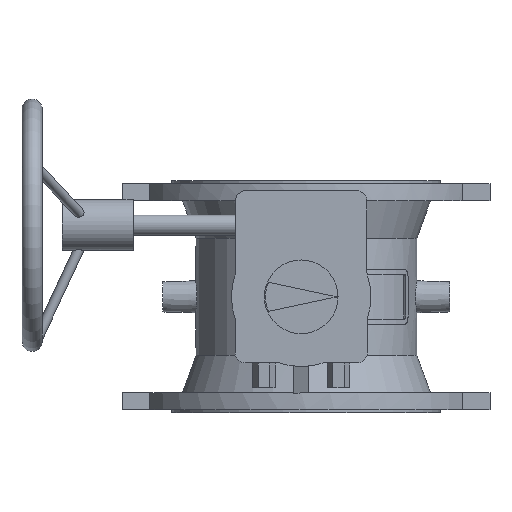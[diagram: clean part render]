
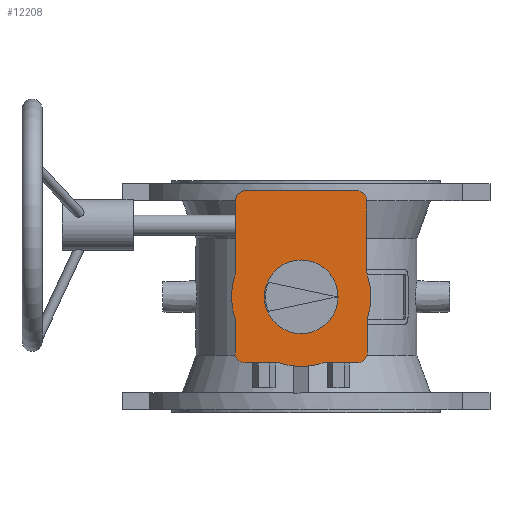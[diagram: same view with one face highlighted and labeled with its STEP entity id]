
A CAD part, left-side view. The second image highlights one B-rep face of the part: STEP entity #12208.
In plain terms, the highlighted planar face has unit normal (-1, 0, 0).
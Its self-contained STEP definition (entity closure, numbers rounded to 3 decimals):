
#148 = EDGE_CURVE ( 'NONE', #3085, #2961, #3271, .T. ) ;
#153 = EDGE_CURVE ( 'NONE', #3190, #3184, #3263, .T. ) ;
#156 = EDGE_CURVE ( 'NONE', #2958, #3218, #3253, .T. ) ;
#164 = EDGE_CURVE ( 'NONE', #3226, #2958, #3258, .T. ) ;
#166 = EDGE_CURVE ( 'NONE', #3196, #3097, #3239, .T. ) ;
#201 = EDGE_CURVE ( 'NONE', #3087, #3196, #11760, .T. ) ;
#204 = EDGE_CURVE ( 'NONE', #3184, #3144, #16314, .T. ) ;
#223 = EDGE_CURVE ( 'NONE', #3189, #3085, #6064, .T. ) ;
#247 = EDGE_CURVE ( 'NONE', #2961, #3102, #7753, .T. ) ;
#251 = EDGE_CURVE ( 'NONE', #3097, #3222, #7760, .T. ) ;
#922 = ORIENTED_EDGE ( 'NONE', *, *, #251, .T. ) ;
#1022 = ORIENTED_EDGE ( 'NONE', *, *, #148, .T. ) ;
#1042 = ORIENTED_EDGE ( 'NONE', *, *, #166, .T. ) ;
#1080 = ORIENTED_EDGE ( 'NONE', *, *, #164, .T. ) ;
#1127 = ORIENTED_EDGE ( 'NONE', *, *, #201, .T. ) ;
#1142 = ORIENTED_EDGE ( 'NONE', *, *, #3516, .F. ) ;
#1172 = ORIENTED_EDGE ( 'NONE', *, *, #223, .T. ) ;
#1233 = ORIENTED_EDGE ( 'NONE', *, *, #247, .T. ) ;
#1382 = ORIENTED_EDGE ( 'NONE', *, *, #156, .T. ) ;
#1467 = ORIENTED_EDGE ( 'NONE', *, *, #3556, .T. ) ;
#1493 = ORIENTED_EDGE ( 'NONE', *, *, #3525, .T. ) ;
#1595 = ORIENTED_EDGE ( 'NONE', *, *, #3487, .T. ) ;
#1621 = ORIENTED_EDGE ( 'NONE', *, *, #3543, .T. ) ;
#2958 = VERTEX_POINT ( 'NONE', #7366 ) ;
#2961 = VERTEX_POINT ( 'NONE', #7260 ) ;
#2975 = ORIENTED_EDGE ( 'NONE', *, *, #3544, .T. ) ;
#2979 = ORIENTED_EDGE ( 'NONE', *, *, #204, .T. ) ;
#2980 = ORIENTED_EDGE ( 'NONE', *, *, #3491, .T. ) ;
#2982 = ORIENTED_EDGE ( 'NONE', *, *, #153, .T. ) ;
#3085 = VERTEX_POINT ( 'NONE', #7232 ) ;
#3087 = VERTEX_POINT ( 'NONE', #7269 ) ;
#3097 = VERTEX_POINT ( 'NONE', #7222 ) ;
#3102 = VERTEX_POINT ( 'NONE', #7220 ) ;
#3106 = VERTEX_POINT ( 'NONE', #7231 ) ;
#3135 = VERTEX_POINT ( 'NONE', #7300 ) ;
#3144 = VERTEX_POINT ( 'NONE', #7162 ) ;
#3184 = VERTEX_POINT ( 'NONE', #7307 ) ;
#3189 = VERTEX_POINT ( 'NONE', #7145 ) ;
#3190 = VERTEX_POINT ( 'NONE', #7171 ) ;
#3196 = VERTEX_POINT ( 'NONE', #7202 ) ;
#3218 = VERTEX_POINT ( 'NONE', #7379 ) ;
#3222 = VERTEX_POINT ( 'NONE', #7384 ) ;
#3226 = VERTEX_POINT ( 'NONE', #7382 ) ;
#3232 = VECTOR ( 'NONE', #16004, 1000. ) ;
#3237 = VECTOR ( 'NONE', #16009, 1000. ) ;
#3238 = VECTOR ( 'NONE', #16046, 1000. ) ;
#3239 = CIRCLE ( 'NONE', #3443, 10. ) ;
#3253 = LINE ( 'NONE', #16027, #3238 ) ;
#3258 = CIRCLE ( 'NONE', #3445, 10. ) ;
#3263 = LINE ( 'NONE', #16048, #3232 ) ;
#3271 = LINE ( 'NONE', #16011, #3237 ) ;
#3397 = AXIS2_PLACEMENT_3D ( 'NONE', #7538, #7539, #7540 ) ;
#3403 = AXIS2_PLACEMENT_3D ( 'NONE', #7508, #7509, #7510 ) ;
#3404 = AXIS2_PLACEMENT_3D ( 'NONE', #7504, #7505, #7506 ) ;
#3410 = AXIS2_PLACEMENT_3D ( 'NONE', #7465, #7466, #7467 ) ;
#3415 = AXIS2_PLACEMENT_3D ( 'NONE', #7419, #7420, #7421 ) ;
#3425 = AXIS2_PLACEMENT_3D ( 'NONE', #7678, #7673, #7674 ) ;
#3432 = AXIS2_PLACEMENT_3D ( 'NONE', #7634, #7654, #7656 ) ;
#3435 = AXIS2_PLACEMENT_3D ( 'NONE', #16086, #16087, #16090 ) ;
#3443 = AXIS2_PLACEMENT_3D ( 'NONE', #15980, #15974, #15972 ) ;
#3445 = AXIS2_PLACEMENT_3D ( 'NONE', #15970, #15978, #15981 ) ;
#3487 = EDGE_CURVE ( 'NONE', #3106, #3087, #7784, .T. ) ;
#3491 = EDGE_CURVE ( 'NONE', #3144, #3135, #7790, .T. ) ;
#3516 = EDGE_CURVE ( 'NONE', #14770, #14770, #7821, .T. ) ;
#3525 = EDGE_CURVE ( 'NONE', #3102, #3106, #7829, .T. ) ;
#3543 = EDGE_CURVE ( 'NONE', #3218, #3190, #7845, .T. ) ;
#3544 = EDGE_CURVE ( 'NONE', #3135, #3189, #7849, .T. ) ;
#3556 = EDGE_CURVE ( 'NONE', #3222, #3226, #7868, .T. ) ;
#5747 = AXIS2_PLACEMENT_3D ( 'NONE', #7025, #7038, #7040 ) ;
#6064 = CIRCLE ( 'NONE', #3432, 69. ) ;
#6829 = CARTESIAN_POINT ( 'NONE',  ( -279., 0., 36.5 ) ) ;
#7025 = CARTESIAN_POINT ( 'NONE',  ( -279., 75., 24.819 ) ) ;
#7027 = PLANE ( 'NONE',  #5747 ) ;
#7038 = DIRECTION ( 'NONE',  ( -1., 0., 0. ) ) ;
#7040 = DIRECTION ( 'NONE',  ( 0., 0., 1. ) ) ;
#7145 = CARTESIAN_POINT ( 'NONE',  ( -279., 65.506, 21.678 ) ) ;
#7162 = CARTESIAN_POINT ( 'NONE',  ( -279., 65., 95. ) ) ;
#7171 = CARTESIAN_POINT ( 'NONE',  ( -279., -55., 105. ) ) ;
#7202 = CARTESIAN_POINT ( 'NONE',  ( -279., -55.5, -65.5 ) ) ;
#7220 = CARTESIAN_POINT ( 'NONE',  ( -279., 55.5, -65.5 ) ) ;
#7222 = CARTESIAN_POINT ( 'NONE',  ( -279., -65.5, -55.5 ) ) ;
#7231 = CARTESIAN_POINT ( 'NONE',  ( -279., 21.697, -65.5 ) ) ;
#7232 = CARTESIAN_POINT ( 'NONE',  ( -279., 65.5, -21.697 ) ) ;
#7260 = CARTESIAN_POINT ( 'NONE',  ( -279., 65.5, -55.5 ) ) ;
#7269 = CARTESIAN_POINT ( 'NONE',  ( -279., -21.697, -65.5 ) ) ;
#7300 = CARTESIAN_POINT ( 'NONE',  ( -279., 65., 24.819 ) ) ;
#7307 = CARTESIAN_POINT ( 'NONE',  ( -279., 55., 105. ) ) ;
#7366 = CARTESIAN_POINT ( 'NONE',  ( -279., -65., 24.819 ) ) ;
#7379 = CARTESIAN_POINT ( 'NONE',  ( -279., -65., 95. ) ) ;
#7382 = CARTESIAN_POINT ( 'NONE',  ( -279., -65.506, 21.678 ) ) ;
#7384 = CARTESIAN_POINT ( 'NONE',  ( -279., -65.5, -21.697 ) ) ;
#7419 = CARTESIAN_POINT ( 'NONE',  ( -279., 0., 0. ) ) ;
#7420 = DIRECTION ( 'NONE',  ( -1., 0., 0. ) ) ;
#7421 = DIRECTION ( 'NONE',  ( 0., 0., 1. ) ) ;
#7426 = CARTESIAN_POINT ( 'NONE',  ( -279., 65., 24.819 ) ) ;
#7427 = DIRECTION ( 'NONE',  ( 0., 0., -1. ) ) ;
#7465 = CARTESIAN_POINT ( 'NONE',  ( -279., 0., 0. ) ) ;
#7466 = DIRECTION ( 'NONE',  ( -1., 0., 0. ) ) ;
#7467 = DIRECTION ( 'NONE',  ( 0., 0., 1. ) ) ;
#7481 = CARTESIAN_POINT ( 'NONE',  ( -279., 55.5, -65.5 ) ) ;
#7482 = DIRECTION ( 'NONE',  ( 0., -1., 0. ) ) ;
#7504 = CARTESIAN_POINT ( 'NONE',  ( -279., -55., 95. ) ) ;
#7505 = DIRECTION ( 'NONE',  ( -1., 0., 0. ) ) ;
#7506 = DIRECTION ( 'NONE',  ( 0., 0., 1. ) ) ;
#7508 = CARTESIAN_POINT ( 'NONE',  ( -279., 75., 24.819 ) ) ;
#7509 = DIRECTION ( 'NONE',  ( 1., 0., 0. ) ) ;
#7510 = DIRECTION ( 'NONE',  ( 0., 0., 1. ) ) ;
#7538 = CARTESIAN_POINT ( 'NONE',  ( -279., 0., 0. ) ) ;
#7539 = DIRECTION ( 'NONE',  ( -1., 0., 0. ) ) ;
#7540 = DIRECTION ( 'NONE',  ( 0., 0., 1. ) ) ;
#7634 = CARTESIAN_POINT ( 'NONE',  ( -279., 0., 0. ) ) ;
#7654 = DIRECTION ( 'NONE',  ( -1., 0., 0. ) ) ;
#7656 = DIRECTION ( 'NONE',  ( 0., 0., 1. ) ) ;
#7665 = CARTESIAN_POINT ( 'NONE',  ( -279., -65.5, -55.5 ) ) ;
#7673 = DIRECTION ( 'NONE',  ( -1., 0., 0. ) ) ;
#7674 = DIRECTION ( 'NONE',  ( 0., 0., 1. ) ) ;
#7678 = CARTESIAN_POINT ( 'NONE',  ( -279., 55.5, -55.5 ) ) ;
#7687 = DIRECTION ( 'NONE',  ( 0., 0., 1. ) ) ;
#7753 = CIRCLE ( 'NONE', #3425, 10. ) ;
#7760 = LINE ( 'NONE', #7665, #7762 ) ;
#7762 = VECTOR ( 'NONE', #7687, 1000. ) ;
#7784 = CIRCLE ( 'NONE', #3415, 69. ) ;
#7790 = LINE ( 'NONE', #7426, #7793 ) ;
#7793 = VECTOR ( 'NONE', #7427, 1000. ) ;
#7821 = CIRCLE ( 'NONE', #3410, 36.5 ) ;
#7829 = LINE ( 'NONE', #7481, #7832 ) ;
#7832 = VECTOR ( 'NONE', #7482, 1000. ) ;
#7845 = CIRCLE ( 'NONE', #3404, 10. ) ;
#7849 = CIRCLE ( 'NONE', #3403, 10. ) ;
#7868 = CIRCLE ( 'NONE', #3397, 69. ) ;
#11760 = LINE ( 'NONE', #15849, #11763 ) ;
#11763 = VECTOR ( 'NONE', #15820, 1000. ) ;
#11975 = EDGE_LOOP ( 'NONE', ( #2982, #2979, #2980, #2975, #1172, #1022, #1233, #1493, #1595, #1127, #1042, #922, #1467, #1080, #1382, #1621 ) ) ;
#12099 = EDGE_LOOP ( 'NONE', ( #1142 ) ) ;
#12208 = ADVANCED_FACE ( 'NONE', ( #14646, #14650 ), #7027, .T. ) ;
#14646 = FACE_OUTER_BOUND ( 'NONE', #11975, .T. ) ;
#14650 = FACE_BOUND ( 'NONE', #12099, .T. ) ;
#14770 = VERTEX_POINT ( 'NONE', #6829 ) ;
#15820 = DIRECTION ( 'NONE',  ( 0., -1., 0. ) ) ;
#15849 = CARTESIAN_POINT ( 'NONE',  ( -279., -55.5, -65.5 ) ) ;
#15970 = CARTESIAN_POINT ( 'NONE',  ( -279., -75., 24.819 ) ) ;
#15972 = DIRECTION ( 'NONE',  ( 0., 0., 1. ) ) ;
#15974 = DIRECTION ( 'NONE',  ( -1., 0., 0. ) ) ;
#15978 = DIRECTION ( 'NONE',  ( 1., 0., 0. ) ) ;
#15980 = CARTESIAN_POINT ( 'NONE',  ( -279., -55.5, -55.5 ) ) ;
#15981 = DIRECTION ( 'NONE',  ( 0., 0., -1. ) ) ;
#16004 = DIRECTION ( 'NONE',  ( 0., 1., 0. ) ) ;
#16009 = DIRECTION ( 'NONE',  ( 0., 0., -1. ) ) ;
#16011 = CARTESIAN_POINT ( 'NONE',  ( -279., 65.5, -55.5 ) ) ;
#16027 = CARTESIAN_POINT ( 'NONE',  ( -279., -65., 24.819 ) ) ;
#16046 = DIRECTION ( 'NONE',  ( 0., 0., 1. ) ) ;
#16048 = CARTESIAN_POINT ( 'NONE',  ( -279., -65., 105. ) ) ;
#16086 = CARTESIAN_POINT ( 'NONE',  ( -279., 55., 95. ) ) ;
#16087 = DIRECTION ( 'NONE',  ( -1., 0., 0. ) ) ;
#16090 = DIRECTION ( 'NONE',  ( 0., 0., 1. ) ) ;
#16314 = CIRCLE ( 'NONE', #3435, 10. ) ;
